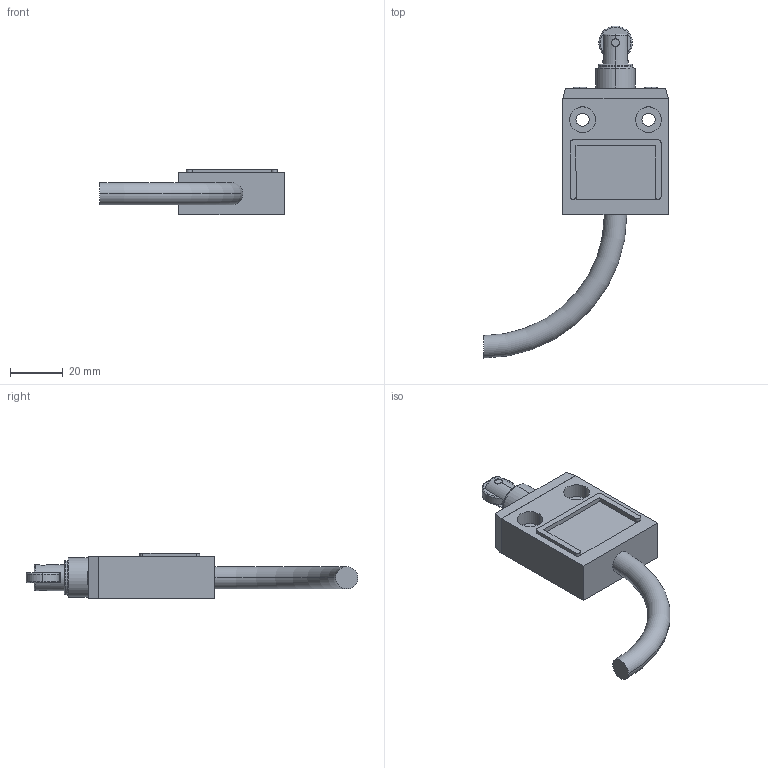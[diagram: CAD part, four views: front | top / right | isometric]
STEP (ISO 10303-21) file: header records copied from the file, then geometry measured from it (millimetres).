
FILE_DESCRIPTION (( 'STEP AP203' ), '1' );
FILE_NAME ('TZ-3112.STEP', '2019-03-27T12:56:00', ( '' ), ( '' ), 'SwSTEP 2.0', 'SolidWorks 2012', '' );
FILE_SCHEMA (( 'CONFIG_CONTROL_DESIGN' ));
Length unit declared in the file: millimetre
Products named in the file (1): TZ-3112
Bounding box: 70 x 125.9 x 17.3 mm (x, y, z)
Volume: 36020.1 mm3; surface area: 11299.2 mm2
Topology: 1 solids, 1 shells, 148 faces, 368 edges, 241 vertices
Faces by surface type: plane 87, cylinder 44, torus 17
Entity records: 4653 total; most frequent: CARTESIAN_POINT 988, DIRECTION 752, ORIENTED_EDGE 736, EDGE_CURVE 368, AXIS2_PLACEMENT_3D 275, VERTEX_POINT 241, VECTOR 202, LINE 202
